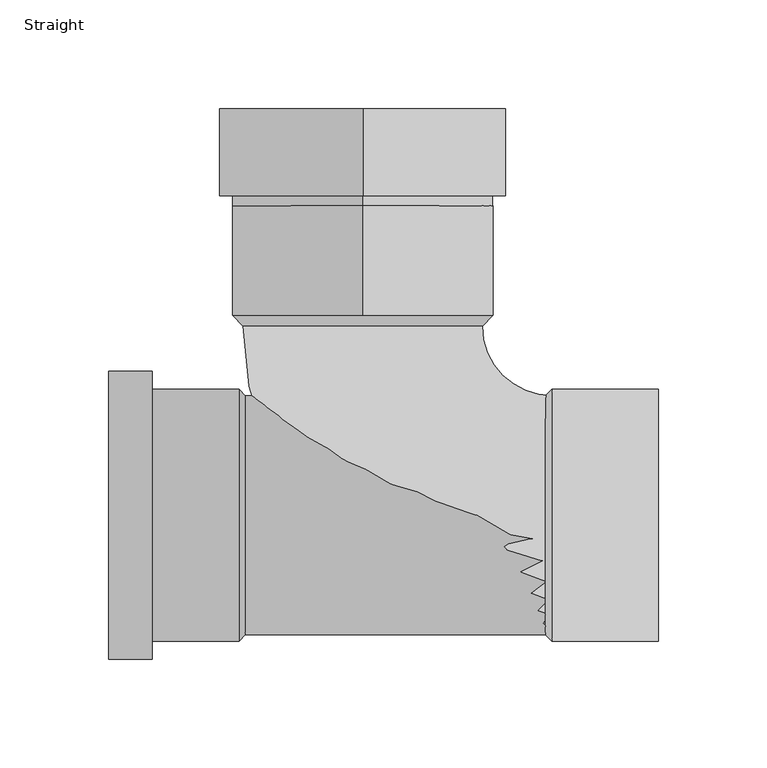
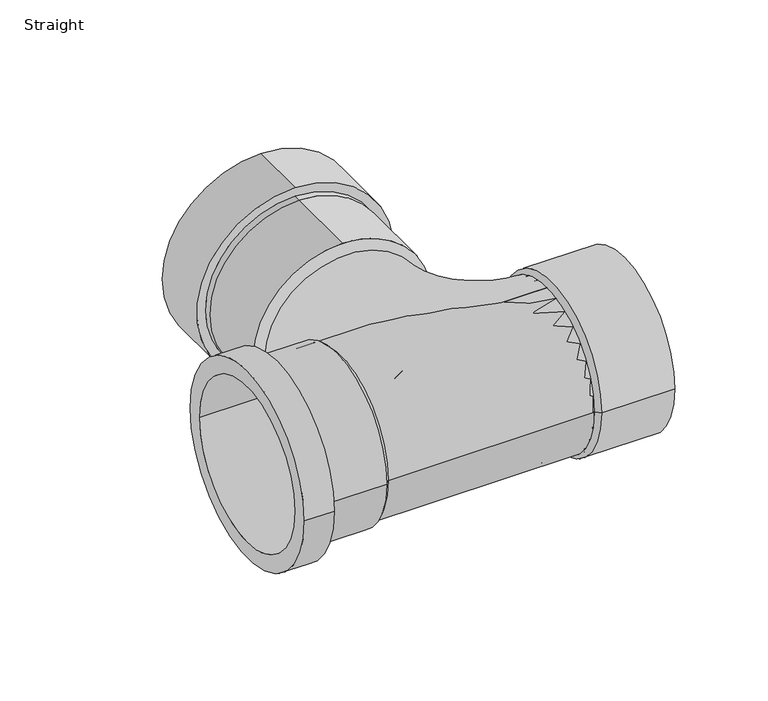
"""IFC4 building model written with IfcOpenShell, lengths in millimetres: pipe fitting geometry, Wavin_PipeAccessory_S&WSPvcBranchWc : Straight."""

from ifc_helpers import new_model, si_unit, point, frame, origin, origin_2d, place, context, project, spatial, polyline, circle_curve, ellipse_curve, trimmed, segment, composite_curve, outline, extrude, source, transform, mapped, element, save
from ifc_brep_helpers import plane_surface, cylinder_surface, revolved_surface, advanced_brep


def straight_09c62ba7(model_context):
    return source(origin(), model_context, "Body", "SolidModel", [
        advanced_brep(
        [(-54.1, -55.0, 0.0), (-54.1, 55.0, 0.0), (-117.0, 55.0, 0.0), (-117.0, -55.0, 0.0), (-97.0, -57.9, 0.0), (-97.0, 57.9, 0.0), (-57.0, 57.9, 0.0), (-57.0, -57.9, 0.0), (-117.0, -66.25, 0.0), (-117.0, 66.25, 0.0), (-97.0, 66.25, 0.0), (-97.0, -66.25, 0.0)],
        [
            (0, 1, circle_curve(frame((-54.1, 0.0, 0.0), z_axis=(1.0, 0.0, 0.0), x_axis=(0.0, 1.0000000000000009, 0.0)), 55.0)),
            (1, 2),
            (2, 3, circle_curve(frame((-117.0, 0.0, 0.0), z_axis=(-1.0, 0.0, 0.0), x_axis=(0.0, 1.0000000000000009, 0.0)), 55.0)),
            (3, 0),
            (4, 5, circle_curve(frame((-97.0, 0.0, 0.0), z_axis=(1.0, 0.0, 0.0), x_axis=(0.0, 1.0000000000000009, 0.0)), 57.9)),
            (5, 6),
            (6, 7, circle_curve(frame((-57.0, 0.0, 0.0), z_axis=(-1.0, 0.0, 0.0), x_axis=(0.0, 1.0000000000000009, 0.0)), 57.9)),
            (7, 4),
            (1, 0, circle_curve(frame((-54.1, 0.0, 0.0), z_axis=(1.0, 0.0, 0.0), x_axis=(0.0, -1.0000000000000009, 0.0)), 55.0)),
            (3, 2, circle_curve(frame((-117.0, 0.0, 0.0), z_axis=(-1.0, 0.0, 0.0), x_axis=(0.0, -1.0000000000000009, 0.0)), 55.0)),
            (5, 4, circle_curve(frame((-97.0, 0.0, 0.0), z_axis=(1.0, 0.0, 0.0), x_axis=(0.0, -1.0000000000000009, 0.0)), 57.9)),
            (7, 6, circle_curve(frame((-57.0, 0.0, 0.0), z_axis=(-1.0, 0.0, 0.0), x_axis=(0.0, -1.0000000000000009, 0.0)), 57.9)),
            (8, 9, circle_curve(frame((-117.0, 0.0, 0.0), z_axis=(1.0, 0.0, 0.0), x_axis=(0.0, 1.0000000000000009, 0.0)), 66.25)),
            (9, 10),
            (10, 11, circle_curve(frame((-97.0, 0.0, 0.0), z_axis=(-1.0, 0.0, 0.0), x_axis=(0.0, 1.0000000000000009, 0.0)), 66.25)),
            (11, 8),
            (10, 11, circle_curve(frame((-97.0, 0.0, 0.0), z_axis=(1.0, 0.0, 0.0), x_axis=(0.0, -1.0000000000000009, 0.0)), 66.25)),
            (9, 8, circle_curve(frame((-117.0, 0.0, 0.0), z_axis=(1.0, 0.0, 0.0), x_axis=(0.0, -1.0000000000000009, 0.0)), 66.25)),
            (6, 1),
            (0, 7),
        ],
        [
            revolved_surface(polyline([(-117.00000000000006, 55.00000000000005, 0.0), (-54.1, 55.00000000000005, 0.0)]), (-57.0, 0.0, 0.0), (-1.0000000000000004, 0.0, 0.0)),
            cylinder_surface(frame((-57.0, 0.0, 0.0), z_axis=(-1.0000000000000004, 0.0, 0.0), x_axis=(0.0, 1.0000000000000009, 0.0)), 57.9),
            revolved_surface(polyline([(-117.00000000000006, -55.00000000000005, 0.0), (-54.1, -55.00000000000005, 0.0)]), (-57.0, 0.0, 0.0), (-1.0000000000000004, 0.0, 0.0)),
            cylinder_surface(frame((-57.0, 0.0, 0.0), z_axis=(-1.0000000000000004, 0.0, 0.0), x_axis=(0.0, -1.0000000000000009, 0.0)), 57.9),
            cylinder_surface(frame((-57.0, 0.0, 0.0), z_axis=(-1.0000000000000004, 0.0, 0.0), x_axis=(0.0, 1.0000000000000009, 0.0)), 66.25),
            plane_surface(frame((-97.0, 0.0, 0.0), z_axis=(1.0, 0.0, 0.0), x_axis=(0.0, -1.0, 0.0))),
            cylinder_surface(frame((-57.0, 0.0, 0.0), z_axis=(-1.0000000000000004, 0.0, 0.0), x_axis=(0.0, -1.0000000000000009, 0.0)), 66.25),
            plane_surface(frame((-117.0, 0.0, 0.0), z_axis=(-1.0, 0.0, 0.0), x_axis=(0.0, -1.0, 0.0))),
            revolved_surface(polyline([(-54.1, 55.0, 0.0), (-57.0, 57.9, 0.0)]), (-57.0, 0.0, 0.0), (-1.0000000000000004, 0.0, 0.0)),
            revolved_surface(polyline([(-54.1, -55.0, 0.0), (-57.0, -57.9, 0.0)]), (-57.0, 0.0, 0.0), (-1.0000000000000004, 0.0, 0.0)),
        ],
        [
            (0, [[1, 2, 3, 4]]),
            (1, [[5, 6, 7, 8]]),
            (2, [[9, -4, 10, -2]]),
            (3, [[11, -8, 12, -6]]),
            (4, [[13, 14, 15, 16]]),
            (5, [[17, -15], [-11, -5]]),
            (6, [[18, -16, -17, -14]]),
            (7, [[-18, -13], [-10, -3]]),
            (8, [[-7, 19, -1, 20]]),
            (9, [[-12, -20, -9, -19]]),
        ],
    ),
        advanced_brep(
        [(87.0, 57.9, 0.0), (87.0, -57.9, 0.0), (84.1, -55.0, 0.0), (84.1, 55.0, 0.0), (136.0, 57.9, 0.0), (136.0, -57.9, 0.0), (136.0, -55.0, 0.0), (136.0, 55.0, 0.0)],
        [
            (0, 1, circle_curve(frame((87.0, 0.0, 0.0), z_axis=(-1.0, 0.0, 0.0), x_axis=(0.0, -1.0, 0.0)), 57.9)),
            (1, 2),
            (2, 3, circle_curve(frame((84.1, 0.0, 0.0), z_axis=(1.0, 0.0, 0.0), x_axis=(0.0, -1.0, 0.0)), 55.0)),
            (3, 0),
            (4, 5, circle_curve(frame((136.0, 0.0, 0.0), z_axis=(-1.0, 0.0, 0.0), x_axis=(0.0, -1.0, 0.0)), 57.9)),
            (5, 1),
            (0, 4),
            (2, 6),
            (6, 7, circle_curve(frame((136.0, 0.0, 0.0), z_axis=(1.0, 0.0, 0.0), x_axis=(0.0, -1.0, 0.0)), 55.0)),
            (7, 3),
            (1, 0, circle_curve(frame((87.0, 0.0, 0.0), z_axis=(-1.0, 0.0, 0.0), x_axis=(0.0, 1.0, 0.0)), 57.9)),
            (3, 2, circle_curve(frame((84.1, 0.0, 0.0), z_axis=(1.0, 0.0, 0.0), x_axis=(0.0, 1.0, 0.0)), 55.0)),
            (5, 4, circle_curve(frame((136.0, 0.0, 0.0), z_axis=(-1.0, 0.0, 0.0), x_axis=(0.0, 1.0, 0.0)), 57.9)),
            (6, 7, circle_curve(frame((136.0, 0.0, 0.0), z_axis=(-1.0, 0.0, 0.0), x_axis=(0.0, 1.0, 0.0)), 55.0)),
        ],
        [
            revolved_surface(polyline([(84.1, -55.0, 0.0), (87.0, -57.9, 0.0)]), (87.0, 0.0, 0.0), (1.0, 0.0, 0.0)),
            cylinder_surface(frame((87.0, 0.0, 0.0), z_axis=(1.0, 0.0, 0.0), x_axis=(0.0, -1.0, 0.0)), 57.9),
            revolved_surface(polyline([(136.0, -55.0, 0.0), (84.1, -55.0, 0.0)]), (87.0, 0.0, 0.0), (1.0, 0.0, 0.0)),
            revolved_surface(polyline([(84.1, 55.0, 0.0), (87.0, 57.9, 0.0)]), (87.0, 0.0, 0.0), (1.0, 0.0, 0.0)),
            cylinder_surface(frame((87.0, 0.0, 0.0), z_axis=(1.0, 0.0, 0.0), x_axis=(0.0, 1.0, 0.0)), 57.9),
            plane_surface(frame((136.0, 0.0, 0.0), z_axis=(1.0, 0.0, 0.0), x_axis=(0.0, 1.0, 0.0))),
            revolved_surface(polyline([(136.0, 55.0, 0.0), (84.1, 55.0, 0.0)]), (87.0, 0.0, 0.0), (1.0, 0.0, 0.0)),
        ],
        [
            (0, [[1, 2, 3, 4]]),
            (1, [[5, 6, -1, 7]]),
            (2, [[-3, 8, 9, 10]]),
            (3, [[11, -4, 12, -2]]),
            (4, [[13, -7, -11, -6]]),
            (5, [[-13, -5], [14, -9]]),
            (6, [[-12, -10, -14, -8]]),
        ],
    ),
        advanced_brep(
        [(87.0, -55.0, 0.0), (87.0, 55.0, 0.0), (-55.0, 87.0, 0.0), (55.0, 87.0, 0.0), (0.0, 187.0, -66.0), (0.0, 187.0, 66.0), (0.0, 187.0, 56.5), (0.0, 187.0, -56.5), (0.0, 142.474576, 60.0), (0.0, 142.474576, -60.0), (0.0, 147.0, -60.0), (0.0, 147.0, 60.0), (0.0, 92.0, 60.0), (60.0, 92.0, 0.0), (0.0, 92.0, -60.0), (-60.0, 92.0, 0.0), (0.0, 147.0, -66.0), (0.0, 147.0, 66.0), (0.0, 117.0, 56.5), (0.0, 117.0, -56.5)],
        [
            (0, 1, circle_curve(frame((87.0, 0.0, 0.0), z_axis=(1.0, 0.0, 0.0), x_axis=(0.0, 1.0, 0.0)), 55.0)),
            (1, 0, circle_curve(frame((87.0, 0.0, 0.0), z_axis=(1.0, 0.0, 0.0), x_axis=(0.0, 1.0, 0.0)), 55.0)),
            (0, 2, circle_curve(frame((87.0, 87.0, 0.0), z_axis=(0.0, 0.0, -1.0), x_axis=(0.0, -1.0, 0.0)), 142.0)),
            (2, 3, circle_curve(frame((0.0, 87.0, 0.0), z_axis=(0.0, -1.0, 0.0), x_axis=(1.0, 0.0, 0.0)), 55.0)),
            (3, 1, circle_curve(frame((87.0, 87.0, 0.0), z_axis=(0.0, 0.0, 1.0), x_axis=(0.0, -1.0, 0.0)), 32.0)),
            (3, 2, circle_curve(frame((0.0, 87.0, 0.0), z_axis=(0.0, -1.0, 0.0), x_axis=(1.0, 0.0, 0.0)), 55.0)),
            (4, 5, circle_curve(frame((0.0, 187.0, 0.0), z_axis=(0.0, 1.0, 0.0), x_axis=(0.0, 0.0, 1.0)), 66.0)),
            (5, 4, circle_curve(frame((0.0, 187.0, 0.0), z_axis=(0.0, 1.0, 0.0), x_axis=(0.0, 0.0, 1.0)), 66.0)),
            (6, 7, circle_curve(frame((0.0, 187.0, 0.0), z_axis=(0.0, -1.0, 0.0), x_axis=(0.0, 0.0, -1.0)), 56.5)),
            (7, 6, circle_curve(frame((0.0, 187.0, 0.0), z_axis=(0.0, -1.0, 0.0), x_axis=(0.0, 0.0, -1.0)), 56.5)),
            (8, 9, circle_curve(frame((0.0, 142.474576, 0.0), z_axis=(0.0, 1.0, 0.0), x_axis=(0.0, 0.0, -1.0)), 60.0)),
            (9, 10),
            (10, 11, circle_curve(frame((0.0, 147.0, 0.0), z_axis=(0.0, -1.0, 0.0), x_axis=(0.0, 0.0, -1.0)), 60.0)),
            (11, 8),
            (9, 8, circle_curve(frame((0.0, 142.474576, 0.0), z_axis=(0.0, 1.0, 0.0), x_axis=(0.0, 0.0, -1.0)), 60.0)),
            (11, 10, circle_curve(frame((0.0, 147.0, 0.0), z_axis=(0.0, -1.0, 0.0), x_axis=(0.0, 0.0, -1.0)), 60.0)),
            (8, 12),
            (12, 13, circle_curve(frame((0.0, 92.0, 0.0), z_axis=(0.0, 1.0, 0.0), x_axis=(0.0, 0.0, -1.0)), 60.0)),
            (13, 14, circle_curve(frame((0.0, 92.0, 0.0), z_axis=(0.0, 1.0, 0.0), x_axis=(0.0, 0.0, -1.0)), 60.0)),
            (14, 9),
            (14, 15, circle_curve(frame((0.0, 92.0, 0.0), z_axis=(0.0, 1.0, 0.0), x_axis=(0.0, 0.0, -1.0)), 60.0)),
            (15, 12, circle_curve(frame((0.0, 92.0, 0.0), z_axis=(0.0, 1.0, 0.0), x_axis=(0.0, 0.0, -1.0)), 60.0)),
            (16, 17, circle_curve(frame((0.0, 147.0, 0.0), z_axis=(0.0, -1.0, 0.0), x_axis=(0.0, 0.0, 1.0)), 66.0)),
            (17, 16, circle_curve(frame((0.0, 147.0, 0.0), z_axis=(0.0, -1.0, 0.0), x_axis=(0.0, 0.0, 1.0)), 66.0)),
            (17, 5),
            (4, 16),
            (18, 19, circle_curve(frame((0.0, 117.0, 0.0), z_axis=(0.0, 1.0, 0.0), x_axis=(0.0, 0.0, -1.0)), 56.5)),
            (19, 18, circle_curve(frame((0.0, 117.0, 0.0), z_axis=(0.0, 1.0, 0.0), x_axis=(0.0, 0.0, -1.0)), 56.5)),
            (19, 7),
            (6, 18),
            (13, 3),
            (2, 15),
        ],
        [
            plane_surface(frame((87.0, 87.0, -50.0), z_axis=(1.0, 0.0, 0.0), x_axis=(0.0, -1.0, 0.0))),
            revolved_surface(trimmed(ellipse_curve(frame((87.0, 0.0, 0.0), z_axis=(1.0, 0.0, 0.0), x_axis=(0.0, 1.0, 0.0)), 55.0, 55.0), [point((87.0, -55.0, 0.0))], [point((87.0, 55.0, 0.0))], True, "CARTESIAN"), (87.0, 87.0, -50.0), (0.0, 0.0, -1.0)),
            revolved_surface(trimmed(ellipse_curve(frame((87.0, 0.0, 0.0), z_axis=(1.0, 0.0, 0.0), x_axis=(0.0, 1.0, 0.0)), 55.0, 55.0), [point((87.0, 55.0, 0.0))], [point((87.0, -55.0, 0.0))], True, "CARTESIAN"), (87.0, 87.0, -50.0), (0.0, 0.0, -1.0)),
            plane_surface(frame((0.0, 187.0, 0.0), z_axis=(0.0, 1.0, 0.0), x_axis=(1.0, 0.0, 0.0))),
            cylinder_surface(frame((0.0, 187.0, 0.0), z_axis=(0.0, 1.0, 0.0), x_axis=(0.0, 0.0, -1.0)), 60.0),
            cylinder_surface(frame((0.0, 142.474576, 0.0), z_axis=(0.0, 1.0, 0.0), x_axis=(0.0, 0.0, -1.0)), 60.0),
            plane_surface(frame((0.0, 147.0, 66.0), z_axis=(0.0, -1.0, 0.0), x_axis=(-1.0, 0.0, 0.0))),
            cylinder_surface(frame((0.0, 147.0, 0.0), z_axis=(0.0, 1.0, 0.0), x_axis=(0.0, 0.0, 1.0)), 66.0),
            plane_surface(frame((0.0, 117.0, -56.5), z_axis=(0.0, 1.0, 0.0), x_axis=(1.0, 0.0, 0.0))),
            revolved_surface(polyline([(0.0, 117.0, -56.5), (0.0, 187.0, -56.5)]), (0.0, 187.0, 0.0), (0.0, -1.0, 0.0)),
            revolved_surface(polyline([(-60.0, 92.0, 0.0), (-55.0, 87.0, 0.0)]), (0.0, 87.0, 0.0), (0.0, -1.0, 0.0)),
            revolved_surface(polyline([(60.0, 92.0, 0.0), (55.0, 87.0, 0.0)]), (0.0, 87.0, 0.0), (0.0, -1.0, 0.0)),
        ],
        [
            (0, [[1, 2]]),
            (1, [[-1, 3, 4, 5]]),
            (2, [[-2, -5, 6, -3]]),
            (3, [[7, 8], [9, 10]]),
            (4, [[11, 12, 13, 14]]),
            (4, [[15, -14, 16, -12]]),
            (5, [[-11, 17, 18, 19, 20]]),
            (5, [[-15, -20, 21, 22, -17]]),
            (6, [[23, 24], [-13, -16]]),
            (7, [[-24, 25, -7, 26]]),
            (7, [[-23, -26, -8, -25]]),
            (8, [[27, 28]]),
            (9, [[-28, 29, -9, 30]]),
            (9, [[-27, -30, -10, -29]]),
            (10, [[31, -4, 32, -21, -19]]),
            (11, [[-31, -18, -22, -32, -6]]),
        ],
    ),
        extrude(outline(composite_curve([segment(trimmed(circle_curve(origin_2d(), 55.0), [point((-55.0, 0.0))], [point((55.0, 0.0))], False, "CARTESIAN"), True, "CONTINUOUS"), segment(trimmed(circle_curve(origin_2d(), 55.0), [point((55.0, 0.0))], [point((-55.0, 0.0))], False, "CARTESIAN"), True, "CONTINUOUS")], self_intersect=False)), frame((-57.0, 0.0, 0.0), z_axis=(1.0, 0.0, 0.0), x_axis=(0.0, 1.0, 0.0)), (0.0, 0.0, 1.0), 144.0),
    ])


if __name__ == "__main__":
    model = new_model("IFC4")
    model_context = context("Model", 3, world=origin())
    ifc_project = project(units=[si_unit("LENGTHUNIT", "METRE", prefix="MILLI")], contexts=[model_context])
    site = spatial("IfcSite", under=ifc_project)
    building = spatial("IfcBuilding", under=site)
    placement = place(None, origin())
    straight_shape = straight_09c62ba7(model_context)
    element("IfcPipeFitting", 1, ObjectType="Wavin_PipeAccessory_S&WSPvcBranchWc : Straight", at=placement, inside=building, context=model_context, shape_type="MappedRepresentation", body=[
        mapped(straight_shape, transform((0.0, 0.0, 0.0), x_axis=(1.0, 0.0, 0.0), y_axis=(0.0, 1.0, 0.0), z_axis=(0.0, 0.0, 1.0))),
    ])
    save(model, "model.ifc")
